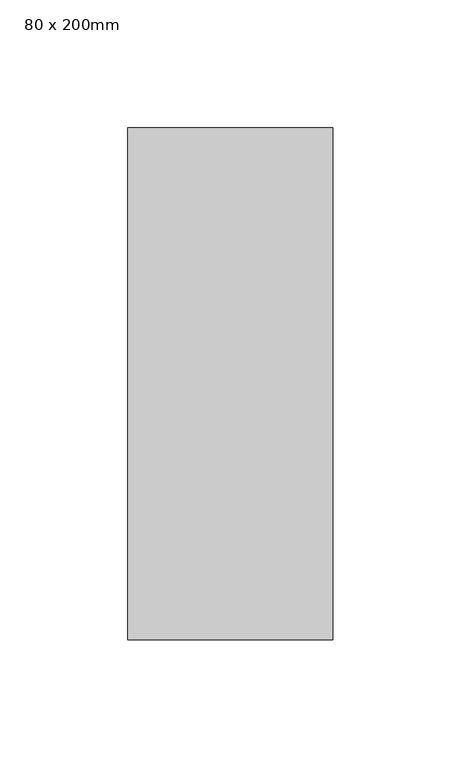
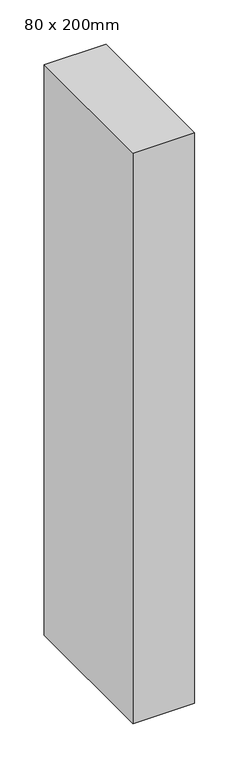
"""IFC4 building model written with IfcOpenShell, lengths in millimetres: member geometry, 矩形竖梃 : 80 x 200mm."""

from ifc_helpers import new_model, si_unit, frame, origin, place, context, project, spatial, polyline, outline, extrude, source, transform, mapped, element, save


def member_80_x_200mm_e8402a9b(model_context):
    return source(origin(), model_context, "Body", "SweptSolid", [
        extrude(outline(polyline([(0.0, 100.0), (0.0, -100.0), (-80.0, -100.0), (-80.0, 100.0), (0.0, 100.0)])), frame((0.0, 0.0, -782.9395637), z_axis=(0.0, 0.0, 1.0), x_axis=(1.0, 0.0, 0.0)), (0.0, 0.0, 1.0), 782.9395637),
    ])


if __name__ == "__main__":
    model = new_model("IFC4")
    model_context = context("Model", 3, world=origin())
    ifc_project = project(units=[si_unit("LENGTHUNIT", "METRE", prefix="MILLI")], contexts=[model_context])
    site = spatial("IfcSite", under=ifc_project)
    building = spatial("IfcBuilding", under=site)
    placement = place(None, origin())
    member_80_x_200mm_shape = member_80_x_200mm_e8402a9b(model_context)
    element("IfcMember", 1, ObjectType="矩形竖梃 : 80 x 200mm", at=placement, inside=building, context=model_context, shape_type="MappedRepresentation", body=[
        mapped(member_80_x_200mm_shape, transform((0.0, 0.0, 0.0), x_axis=(1.0, 0.0, 0.0), y_axis=(0.0, 1.0, 0.0), z_axis=(0.0, 0.0, 1.0))),
    ])
    save(model, "model.ifc")
